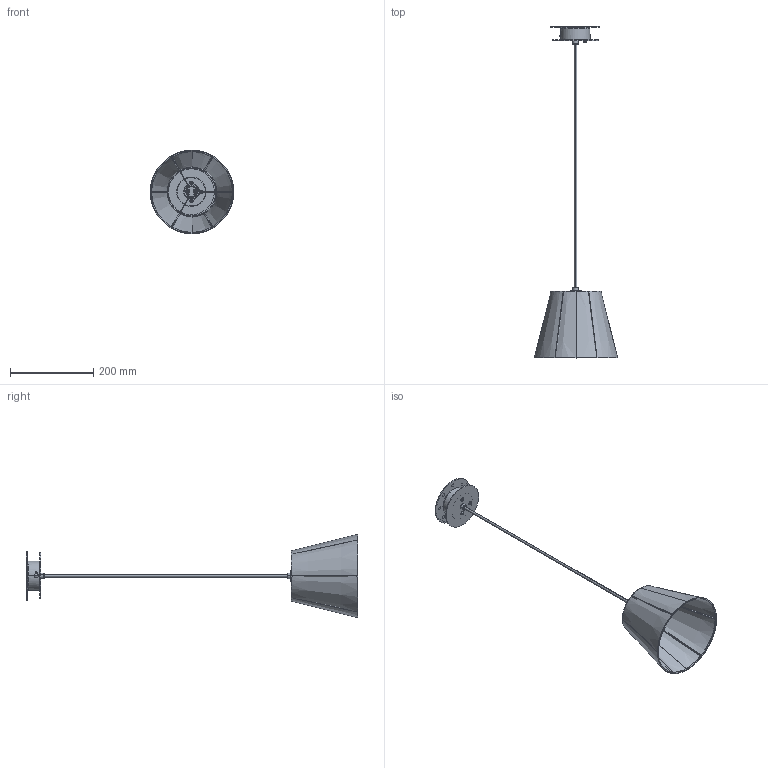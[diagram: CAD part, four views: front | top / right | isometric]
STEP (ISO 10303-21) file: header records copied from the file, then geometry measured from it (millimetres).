
FILE_DESCRIPTION (( 'STEP AP203' ), '1' );
FILE_NAME ('PT1 chapa adaptadora.STEP', '2023-09-07T08:25:10', ( '' ), ( '' ), 'SwSTEP 2.0', 'SolidWorks 2021', '' );
FILE_SCHEMA (( 'CONFIG_CONTROL_DESIGN' ));
Length unit declared in the file: millimetre
Products named in the file (25): Radio_PT-1_PPT17; Larguero_PT-1_PPT17; Tornillo NFE 27128 M4x8; PT1 chapa adaptadora; Camisa Portalamparas E27 liso ref.103467; Prensacables E27 VOSSLOH ref.09502; 15-7617; Cupula portalamparas E26-E27 VOSSLOH ref.109074. E110298; Pantalla_PT-1_PPT17; Manguera H05RN 2x0.75; PT-1_PPT17; 14-4191; 12-4032; Tija M10x100 L=18mm; 23-0280; Anillo_bueno_PT-1_PPT17; Arandela DIN 6798 J M4; C-23-0111; 14-4710; C-23-0112; Pasacables E.I. 5101_Pasacables E.I 5101 negro; Contacto portalamparas E27 VOSSLOH ref.103643; Aro_sup_PT-1_PPT17; Aro_inf_PT-1_PPT17; C-17-3599
Assembly tree (33 placements, depth 4):
  PT1 chapa adaptadora
    C-17-3599
      Cupula portalamparas E26-E27 VOSSLOH ref.109074. E110298
      Contacto portalamparas E27 VOSSLOH ref.103643
      Camisa Portalamparas E27 liso ref.103467
      15-7617
      Tija M10x100 L=18mm
      Arandela DIN 6798 J M4
      Manguera H05RN 2x0.75
      Prensacables E27 VOSSLOH ref.09502
      Pasacables E.I. 5101_Pasacables E.I 5101 negro
    C-23-0112
      Tornillo NFE 27128 M4x8  x2
      C-23-0111
        23-0280
      15-7617
      12-4032
      14-4710
      14-4191
    PT-1_PPT17
      Aro_sup_PT-1_PPT17
      Aro_inf_PT-1_PPT17
      Radio_PT-1_PPT17  x3
      Larguero_PT-1_PPT17  x6
      Anillo_bueno_PT-1_PPT17
      Pantalla_PT-1_PPT17
Bounding box: 200 x 795.54 x 200 mm (x, y, z)
Volume: 123968.4 mm3; surface area: 300533.9 mm2
Topology: 29 solids, 29 shells, 692 faces, 1651 edges, 1026 vertices
Faces by surface type: plane 317, cylinder 199, cone 138, torus 34, sphere 4
Entity records: 21994 total; most frequent: CARTESIAN_POINT 3547, DIRECTION 3441, ORIENTED_EDGE 3114, EDGE_CURVE 1557, AXIS2_PLACEMENT_3D 1256, VERTEX_POINT 966, LINE 929, VECTOR 929
